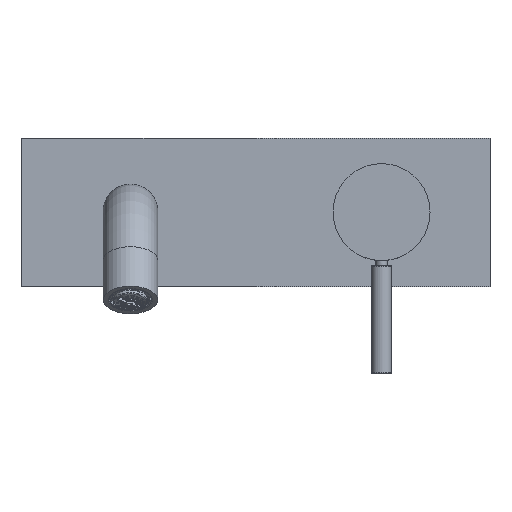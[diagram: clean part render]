
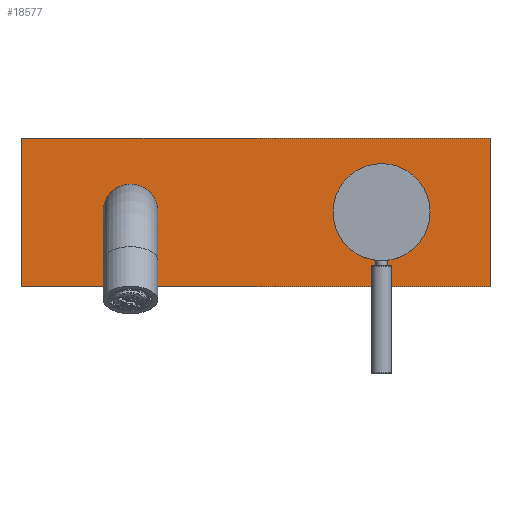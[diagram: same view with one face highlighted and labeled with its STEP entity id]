
A CAD part, top view. The second image highlights one B-rep face of the part: STEP entity #18577.
In plain terms, the highlighted planar face has unit normal (0, 0, 1).
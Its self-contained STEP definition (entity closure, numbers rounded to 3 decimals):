
#2006=CARTESIAN_POINT('',(130.,0.,15.2));
#2007=DIRECTION('',(0.,0.,1.));
#2008=DIRECTION('',(0.,1.,0.));
#2009=AXIS2_PLACEMENT_3D('',#2006,#2007,#2008);
#2021=DIRECTION('',(1.,0.,0.));
#2022=VECTOR('',#2021,205.);
#2023=CARTESIAN_POINT('',(-27.5,-32.5,15.2));
#2024=LINE('',#2023,#2022);
#2025=DIRECTION('',(0.,-1.,0.));
#2026=VECTOR('',#2025,65.);
#2027=CARTESIAN_POINT('',(-27.5,32.5,15.2));
#2028=LINE('',#2027,#2026);
#2029=DIRECTION('',(-1.,0.,0.));
#2030=VECTOR('',#2029,205.);
#2031=CARTESIAN_POINT('',(177.5,32.5,15.2));
#2032=LINE('',#2031,#2030);
#2033=DIRECTION('',(0.,1.,0.));
#2034=VECTOR('',#2033,65.);
#2035=CARTESIAN_POINT('',(177.5,-32.5,15.2));
#2036=LINE('',#2035,#2034);
#2037=CARTESIAN_POINT('',(20.,0.,15.2));
#2038=DIRECTION('',(0.,0.,-1.));
#2039=DIRECTION('',(-1.,0.,0.));
#2040=AXIS2_PLACEMENT_3D('',#2037,#2038,#2039);
#2046=CARTESIAN_POINT('',(20.,0.,15.2));
#2047=DIRECTION('',(0.,0.,-1.));
#2048=DIRECTION('',(1.,0.,0.));
#2049=AXIS2_PLACEMENT_3D('',#2046,#2047,#2048);
#5466=CARTESIAN_POINT('',(130.,0.,15.2));
#5467=DIRECTION('',(0.,0.,1.));
#5468=DIRECTION('',(0.,-1.,0.));
#5469=AXIS2_PLACEMENT_3D('',#5466,#5467,#5468);
#13343=CARTESIAN_POINT('',(-27.5,-32.5,15.2));
#13344=CARTESIAN_POINT('',(177.5,-32.5,15.2));
#13345=VERTEX_POINT('',#13343);
#13346=VERTEX_POINT('',#13344);
#13347=CARTESIAN_POINT('',(177.5,32.5,15.2));
#13348=VERTEX_POINT('',#13347);
#13349=CARTESIAN_POINT('',(-27.5,32.5,15.2));
#13350=VERTEX_POINT('',#13349);
#17364=CARTESIAN_POINT('',(130.,20.5,15.2));
#17365=CARTESIAN_POINT('',(130.,-20.5,15.2));
#17366=VERTEX_POINT('',#17364);
#17367=VERTEX_POINT('',#17365);
#17384=CARTESIAN_POINT('',(8.,0.,15.2));
#17385=CARTESIAN_POINT('',(32.,0.,15.2));
#17386=VERTEX_POINT('',#17384);
#17387=VERTEX_POINT('',#17385);
#18551=CARTESIAN_POINT('',(75.,-32.5,15.2));
#18552=DIRECTION('',(0.,0.,1.));
#18553=DIRECTION('',(1.,0.,0.));
#18554=AXIS2_PLACEMENT_3D('',#18551,#18552,#18553);
#18555=PLANE('',#18554);
#18557=ORIENTED_EDGE('',*,*,#18556,.F.);
#18559=ORIENTED_EDGE('',*,*,#18558,.F.);
#18561=ORIENTED_EDGE('',*,*,#18560,.F.);
#18563=ORIENTED_EDGE('',*,*,#18562,.F.);
#18564=EDGE_LOOP('',(#18557,#18559,#18561,#18563));
#18565=FACE_OUTER_BOUND('',#18564,.F.);
#18566=ORIENTED_EDGE('',*,*,#18511,.T.);
#18568=ORIENTED_EDGE('',*,*,#18567,.T.);
#18569=EDGE_LOOP('',(#18566,#18568));
#18570=FACE_BOUND('',#18569,.F.);
#18572=ORIENTED_EDGE('',*,*,#18571,.F.);
#18574=ORIENTED_EDGE('',*,*,#18573,.F.);
#18575=EDGE_LOOP('',(#18572,#18574));
#18576=FACE_BOUND('',#18575,.F.);
#2010=CIRCLE('',#2009,20.5);
#2041=CIRCLE('',#2040,12.);
#2050=CIRCLE('',#2049,12.);
#5470=CIRCLE('',#5469,20.5);
#18511=EDGE_CURVE('',#17366,#17367,#2010,.T.);
#18556=EDGE_CURVE('',#13345,#13346,#2024,.T.);
#18558=EDGE_CURVE('',#13350,#13345,#2028,.T.);
#18560=EDGE_CURVE('',#13348,#13350,#2032,.T.);
#18562=EDGE_CURVE('',#13346,#13348,#2036,.T.);
#18567=EDGE_CURVE('',#17367,#17366,#5470,.T.);
#18571=EDGE_CURVE('',#17386,#17387,#2041,.T.);
#18573=EDGE_CURVE('',#17387,#17386,#2050,.T.);
#18577=ADVANCED_FACE('',(#18565,#18570,#18576),#18555,.T.);
